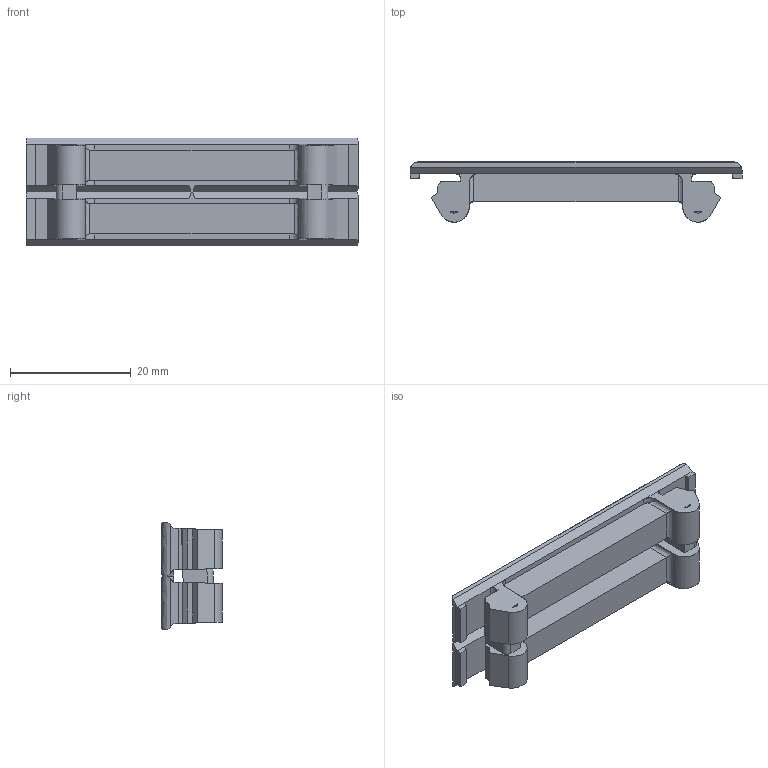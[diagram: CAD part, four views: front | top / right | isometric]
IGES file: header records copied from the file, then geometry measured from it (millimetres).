
Start section: SolidWorks IGES file using analytic representation for surfaces
Global section: file name: \\Brjgs100\dfsweg\GROUPS\BR_SC_JGS_WA_TECNICO\ENG\Usuarios\Rodrigob\conversão\Linha Predial\Produto\Quadros QDW\Acessorios\TQW\TQW.IGS; native system: SolidWorks 2018; preprocessor: SolidWorks 2018; author: rodrigob; date: 210511.134356; units: millimetre
Bounding box: 55 x 10 x 17.8 mm (x, y, z)
Surface area: 3681.7 mm2 (no closed solid volume)
Topology: 0 solids, 0 shells, 129 faces, 1196 edges, 1196 vertices
Faces by surface type: bspline 97, revolution 32
